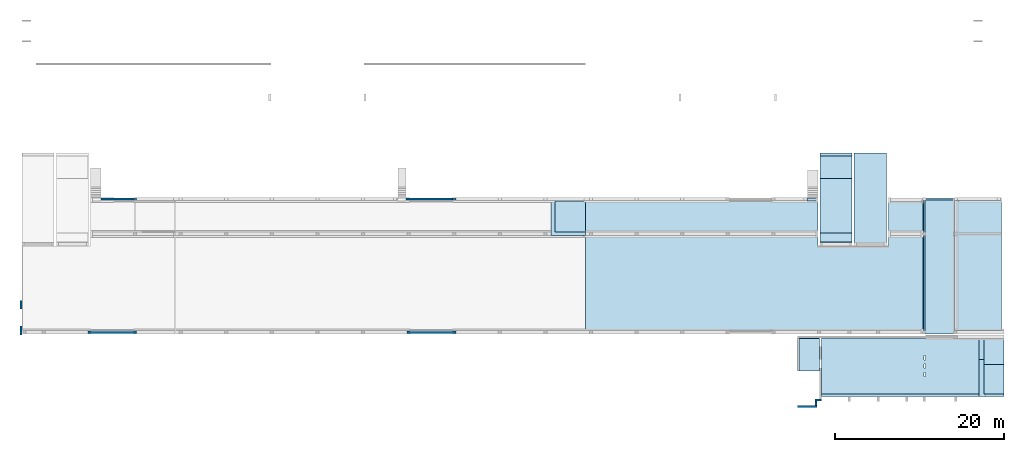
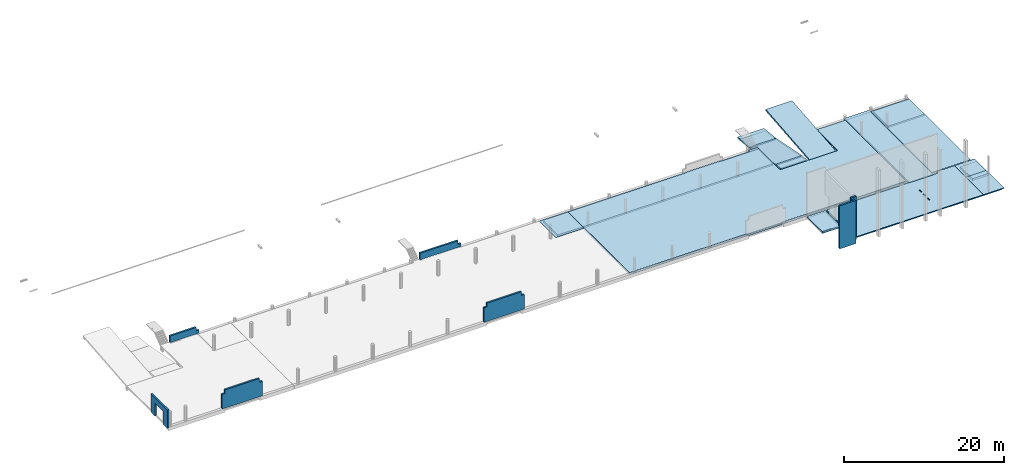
# One storey, part 5 of 9: 27 slabs, 8 walls, 17 openings.
"""IFC2X3 building model written with IfcOpenShell, lengths in millimetres."""

from ifc_helpers import new_model, entity, si_unit, converted_unit, derived_unit, direction, frame, frame_2d, origin, origin_2d_with_axis, place, context, subcontext, project, spatial, polyline, rectangle, outline, extrude, clip, halfspace, material, layer, layer_set, layer_usage, type_object, element, save


model = new_model("IFC2X3")

# Units and contexts
model_context = context("Model", 3, precision=0.01, world=origin(), true_north=direction((6.12303176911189e-17, 1.0)))
body_context = subcontext(model_context, "Body", "Model", "MODEL_VIEW")
ifc_project = project(units=[si_unit("LENGTHUNIT", "METRE", prefix="MILLI"), si_unit("AREAUNIT", "SQUARE_METRE"), si_unit("VOLUMEUNIT", "CUBIC_METRE"), converted_unit("PLANEANGLEUNIT", "DEGREE", entity("IfcRatioMeasure", 0.0174532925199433), si_unit("PLANEANGLEUNIT", "RADIAN"), dimensions=[0, 0, 0, 0, 0, 0, 0]), si_unit("MASSUNIT", "GRAM", prefix="KILO"), derived_unit("MASSDENSITYUNIT", [(si_unit("MASSUNIT", "GRAM", prefix="KILO"), 1), (si_unit("LENGTHUNIT", "METRE"), -3)]), si_unit("TIMEUNIT", "SECOND"), si_unit("FREQUENCYUNIT", "HERTZ"), si_unit("THERMODYNAMICTEMPERATUREUNIT", "DEGREE_CELSIUS"), derived_unit("THERMALTRANSMITTANCEUNIT", [(si_unit("MASSUNIT", "GRAM", prefix="KILO"), 1), (si_unit("THERMODYNAMICTEMPERATUREUNIT", "KELVIN"), -1), (si_unit("TIMEUNIT", "SECOND"), -3)]), derived_unit("VOLUMETRICFLOWRATEUNIT", [(si_unit("LENGTHUNIT", "METRE"), 3), (si_unit("TIMEUNIT", "SECOND"), -1)]), si_unit("ELECTRICCURRENTUNIT", "AMPERE"), si_unit("ELECTRICVOLTAGEUNIT", "VOLT"), si_unit("POWERUNIT", "WATT"), si_unit("FORCEUNIT", "NEWTON", prefix="KILO"), si_unit("ILLUMINANCEUNIT", "LUX"), si_unit("LUMINOUSFLUXUNIT", "LUMEN"), si_unit("LUMINOUSINTENSITYUNIT", "CANDELA"), derived_unit("USERDEFINED", [(si_unit("MASSUNIT", "GRAM", prefix="KILO"), -1), (si_unit("LENGTHUNIT", "METRE"), -2), (si_unit("TIMEUNIT", "SECOND"), 3), (si_unit("LUMINOUSFLUXUNIT", "LUMEN"), 1)]), derived_unit("LINEARVELOCITYUNIT", [(si_unit("LENGTHUNIT", "METRE"), 1), (si_unit("TIMEUNIT", "SECOND"), -1)]), si_unit("PRESSUREUNIT", "PASCAL"), derived_unit("USERDEFINED", [(si_unit("LENGTHUNIT", "METRE"), -2), (si_unit("MASSUNIT", "GRAM", prefix="KILO"), 1), (si_unit("TIMEUNIT", "SECOND"), -2)])], contexts=[model_context])

# Site, building, storey
site_placement = place(None, origin())
site = spatial("IfcSite", under=ifc_project, at=site_placement, Name="Default", CompositionType="ELEMENT")
building_placement = place(site_placement, origin())
building = spatial("IfcBuilding", under=site, at=building_placement, Name="niet gebruiken", CompositionType="ELEMENT")
storey_placement = place(building_placement, frame((0.0, 0.0, 5570.0)))
storey = spatial("IfcBuildingStorey", under=building, at=storey_placement, Name="01b tweede tussenverdieping", CompositionType="ELEMENT", Elevation=5570.0)

# Slabs
ifc_material_1 = material(Name="NLRS_f2_beton prefab")
ifc_layer_1 = layer(ifc_material_1, 255.0)
ifc_layer_set_1 = layer_set([ifc_layer_1], Name="Floor:NLRS_23.21_FL_kanaalplaat d=255_gen")
ifc_layer_usage_1 = layer_usage(ifc_layer_set_1, "AXIS3", "POSITIVE", 0.0)
slab_1_placement = place(storey_placement, origin())
element("IfcSlab", 1, at=slab_1_placement, inside=storey, material=ifc_layer_usage_1, Name="Floor:NLRS_23.21_FL_kanaalplaat d=255_gen", ObjectType="Floor:NLRS_23.21_FL_kanaalplaat d=255_gen", PredefinedType="FLOOR", context=body_context, shape_type="SweptSolid", body=[
    extrude(outline(polyline([(-5389.16666666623, -23730.0), (5820.83333333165, -23730.0), (5820.8333333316, 3755.0), (4600.8333333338, 3755.0), (4600.83333333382, 12145.0), (5820.83333333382, 12145.0), (5820.83333333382, 16230.0), (-5389.16666666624, 16230.0), (-5389.16666666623, -1720.0), (-5464.16666666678, -1720.0), (-5464.16666666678, -6680.0), (-5389.16666666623, -6680.0), (-5389.16666666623, -23730.0)])), frame((98700.0, 14805.1666666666, -70.0), z_axis=(0.0, 0.0, -1.0), x_axis=(0.0, 1.0, 0.0)), (0.0, 0.0, 1.0), 255.000000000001),
])
ifc_material_2 = material(Name="NLRS_f2_beton ihwg")
ifc_layer_2 = layer(ifc_material_2, 70.0)
ifc_layer_set_2 = layer_set([ifc_layer_2], Name="Floor:NLRS_23.21_FL_druklaag d=70 - gevlinderd en ingestrooid_gen")
ifc_layer_usage_2 = layer_usage(ifc_layer_set_2, "AXIS3", "POSITIVE", 0.0)
slab_2_placement = place(storey_placement, origin())
element("IfcSlab", 2, at=slab_2_placement, inside=storey, material=ifc_layer_usage_2, Name="Floor:NLRS_23.21_FL_druklaag d=70 - gevlinderd en ingestrooid_gen", ObjectType="Floor:NLRS_23.21_FL_druklaag d=70 - gevlinderd en ingestrooid_gen", PredefinedType="FLOOR", context=body_context, shape_type="SweptSolid", body=[
    extrude(outline(polyline([(-9686.11111111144, -23075.0), (5693.88888888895, -23075.0), (5693.88888888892, -6065.0), (5768.8888888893, -6065.0), (5768.88888888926, -1045.0), (5693.88888888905, -1045.0), (5693.88888888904, 3160.0), (6013.88888888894, 3160.0), (6013.88888888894, 4430.0), (343.888888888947, 4430.0), (343.88888888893, 12780.0), (5618.88888888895, 12780.0), (5618.88888888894, 16905.0), (-9686.11111111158, 16905.0), (-9686.11111111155, -1045.0), (-9761.1111111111, -1045.0), (-9761.11111111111, -6045.0), (-9686.11111111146, -6045.0), (-9686.11111111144, -23075.0)])), frame((98045.0, 19082.1111111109, 0.0), z_axis=(0.0, 0.0, -1.0), x_axis=(0.0, 1.0, 0.0)), (0.0, 0.0, 1.0), 70.0000000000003),
])
ifc_layer_usage_3 = layer_usage(ifc_layer_set_1, "AXIS3", "POSITIVE", 0.0)
slab_3_placement = place(storey_placement, origin())
element("IfcSlab", 3, at=slab_3_placement, inside=storey, material=ifc_layer_usage_3, Name="Floor:NLRS_23.21_FL_kanaalplaat d=255_gen", ObjectType="Floor:NLRS_23.21_FL_kanaalplaat d=255_gen", PredefinedType="FLOOR", context=body_context, shape_type="SweptSolid", body=[
    extrude(rectangle(XDim=3614.99999999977, YDim=4085.0008139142, at=frame_2d((0.0, -8.64019966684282e-12), x_axis=(1.0, 0.0))), frame((112887.500406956, 22873.4999999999, -70.0), z_axis=(0.0, 0.0, -1.0), x_axis=(0.0, 1.0, 0.0)), (0.0, 0.0, 1.0), 255.000000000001),
])
ifc_layer_usage_4 = layer_usage(ifc_layer_set_1, "AXIS3", "POSITIVE", 0.0)
slab_4_placement = place(storey_placement, origin())
element("IfcSlab", 4, at=slab_4_placement, inside=storey, material=ifc_layer_usage_4, Name="Floor:NLRS_23.21_FL_kanaalplaat d=255_gen", ObjectType="Floor:NLRS_23.21_FL_kanaalplaat d=255_gen", PredefinedType="FLOOR", context=body_context, shape_type="SweptSolid", body=[
    extrude(outline(polyline([(-2786.25000000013, -16636.2500000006), (903.749999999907, -16636.2500000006), (903.749999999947, 413.750000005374), (978.750000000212, 413.750000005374), (978.75000000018, 5373.74999999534), (903.749999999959, 5373.74999999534), (903.749999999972, 10848.7499999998), (-2786.25000000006, 10848.7499999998), (-2786.25000000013, -16636.2500000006)])), frame((91606.2499999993, 23852.25, -70.0), z_axis=(0.0, 0.0, -1.0), x_axis=(0.0, 1.0, 0.0)), (0.0, 0.0, 1.0), 255.000000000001),
])
ifc_layer_3 = layer(ifc_material_2, 250.0)
ifc_layer_set_3 = layer_set([ifc_layer_3], Name="Floor:NLRS_23.21_FL_breedplaat d=70/250_opgeruwd_schil apart_gen")
ifc_layer_usage_5 = layer_usage(ifc_layer_set_3, "AXIS3", "POSITIVE", 0.0)
slab_5_placement = place(storey_placement, frame((102725.0, 19426.0, -401.246890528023)))
element("IfcSlab", 5, at=slab_5_placement, inside=storey, material=ifc_layer_usage_5, Name="Floor:NLRS_23.21_FL_breedplaat d=70/250_opgeruwd_schil apart_gen", ObjectType="Floor:NLRS_23.21_FL_breedplaat d=70/250_opgeruwd_schil apart_gen", PredefinedType="FLOOR", context=body_context, shape_type="SweptSolid", body=[
    extrude(rectangle(XDim=3799.99999999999, YDim=1507.48134316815, at=frame_2d((0.0, -753.740671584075), x_axis=(-1.0, 0.0))), frame((1900.0, 1500.0, 251.246890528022), z_axis=(0.0, 0.0995037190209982, 0.995037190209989), x_axis=(1.0, 0.0, 0.0)), (0.0, 0.0995037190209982, -0.995037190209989), 251.246890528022),
])
ifc_layer_usage_6 = layer_usage(ifc_layer_set_3, "AXIS3", "POSITIVE", 0.0)
slab_6_placement = place(storey_placement, origin())
element("IfcSlab", 6, at=slab_6_placement, inside=storey, material=ifc_layer_usage_6, Name="Floor:NLRS_23.21_FL_breedplaat d=70/250_opgeruwd_schil apart_gen", ObjectType="Floor:NLRS_23.21_FL_breedplaat d=70/250_opgeruwd_schil apart_gen", PredefinedType="FLOOR", context=body_context, shape_type="Clipping", body=[
    clip(clip(extrude(rectangle(XDim=6630.69377968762, YDim=3800.0, at=origin_2d_with_axis()), frame((104625.0, 24176.0, -805.0), z_axis=(0.0, -0.197566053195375, -0.980289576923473), x_axis=(0.0, 0.980289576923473, -0.197566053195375)), (0.197566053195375, 0.0, 0.980289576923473), 187.311195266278), halfspace(frame((104625.0, 27426.0, -1643.61921236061), z_axis=(0.0, -0.197566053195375, -0.980289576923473), x_axis=(0.0, 0.980289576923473, -0.197566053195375)), False)), halfspace(frame((104625.0, 27426.0, -1460.0), z_axis=(0.0, 0.197566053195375, 0.980289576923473), x_axis=(0.0, 0.980289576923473, -0.197566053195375)), False)),
])

# Slab, opening
ifc_layer_usage_7 = layer_usage(ifc_layer_set_3, "AXIS3", "POSITIVE", 0.0)
slab_7_placement = place(storey_placement, frame((102725.0, 27426.0, -2011.24689052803)))
slab_7 = element("IfcSlab", 7, at=slab_7_placement, inside=storey, material=ifc_layer_usage_7, Name="Floor:NLRS_23.21_FL_breedplaat d=70/250_opgeruwd_schil apart_gen", ObjectType="Floor:NLRS_23.21_FL_breedplaat d=70/250_opgeruwd_schil apart_gen", PredefinedType="FLOOR", context=body_context, shape_type="SweptSolid", body=[
    extrude(rectangle(XDim=3014.96268633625, YDim=3799.99999999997, at=frame_2d((0.0, -1507.48134316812), x_axis=(0.0, -1.0))), frame((1900.0, 3000.0, 251.246890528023), z_axis=(0.0, 0.0995037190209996, 0.995037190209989), x_axis=(1.0, 0.0, 0.0)), (0.0, 0.0995037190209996, -0.995037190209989), 251.246890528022),
])
opening_1_placement = place(slab_7_placement, origin())
element("IfcOpeningElement", 8, at=opening_1_placement, cuts=slab_7, ObjectType="Opening", context=body_context, shape_type="SweptSolid", body=[
    extrude(rectangle(XDim=380.0, YDim=3759.99999999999, at=origin_2d_with_axis()), frame((1900.0, 2810.0, -213.753109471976), z_axis=(0.0, 0.0, 1.0), x_axis=(0.0, 1.0, 0.0)), (0.0, 0.0, 1.0), 250.0),
])

# Slabs
ifc_layer_usage_8 = layer_usage(ifc_layer_set_2, "AXIS3", "POSITIVE", 0.0)
slab_8_placement = place(storey_placement, origin())
element("IfcSlab", 9, at=slab_8_placement, inside=storey, material=ifc_layer_usage_8, Name="Floor:NLRS_23.21_FL_druklaag d=70 - gevlinderd en ingestrooid_gen", ObjectType="Floor:NLRS_23.21_FL_druklaag d=70 - gevlinderd en ingestrooid_gen", PredefinedType="FLOOR", context=body_context, shape_type="SweptSolid", body=[
    extrude(rectangle(XDim=4150.00000000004, YDim=4099.99999999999, at=frame_2d((0.0, 4.32009983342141e-12), x_axis=(1.0, 0.0))), frame((72900.0, 22701.0, 0.0), z_axis=(0.0, 0.0, -1.0), x_axis=(0.0, 1.0, 0.0)), (0.0, 0.0, 1.0), 70.0000000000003),
])
ifc_layer_usage_9 = layer_usage(ifc_layer_set_1, "AXIS3", "POSITIVE", 0.0)
slab_9_placement = place(storey_placement, origin())
element("IfcSlab", 10, at=slab_9_placement, inside=storey, material=ifc_layer_usage_9, Name="Floor:NLRS_23.21_FL_kanaalplaat d=255_gen", ObjectType="Floor:NLRS_23.21_FL_kanaalplaat d=255_gen", PredefinedType="FLOOR", context=body_context, shape_type="SweptSolid", body=[
    extrude(rectangle(XDim=3690.00000000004, YDim=3600.0, at=frame_2d((-2.1600499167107e-12, 0.0), x_axis=(1.0, 0.0))), frame((73150.0, 22911.0, -70.0), z_axis=(0.0, 0.0, -1.0), x_axis=(0.0, 1.0, 0.0)), (0.0, 0.0, 1.0), 255.000000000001),
])

# Slab, openings
ifc_layer_4 = layer(ifc_material_1, 320.0)
ifc_layer_set_4 = layer_set([ifc_layer_4], Name="Floor:NLRS_23.21_FL_kanaalplaat d=320_gen")
ifc_layer_usage_10 = layer_usage(ifc_layer_set_4, "AXIS3", "POSITIVE", 0.0)
slab_10_placement = place(storey_placement, frame((102925.0, 1890.0, -80.0)))
slab_10 = element("IfcSlab", 11, at=slab_10_placement, inside=storey, material=ifc_layer_usage_10, Name="Floor:NLRS_23.21_FL_kanaalplaat d=320_gen", ObjectType="Floor:NLRS_23.21_FL_kanaalplaat d=320_gen", PredefinedType="FLOOR", context=body_context, shape_type="SweptSolid", body=[
    extrude(outline(polyline([(-5925.0, 3303.0), (-5925.0, 3258.0), (-9610.0, 3258.0), (-9610.0, -3303.0), (9610.0, -3303.0), (9610.0, 3303.0), (-5925.0, 3303.0)])), frame((9610.0, 3303.0, 320.0), z_axis=(0.0, 0.0, -1.0), x_axis=(-1.0, 0.0, 0.0)), (0.0, 0.0, 1.0), 320.0),
])
opening_2_placement = place(slab_10_placement, origin())
element("IfcOpeningElement", 12, at=opening_2_placement, cuts=slab_10, ObjectType="Opening", context=body_context, shape_type="SweptSolid", body=[
    extrude(rectangle(XDim=500.000000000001, YDim=150.000000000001, at=origin_2d_with_axis()), frame((12200.0, 4293.0, 0.0), z_axis=(0.0, 0.0, 1.0), x_axis=(0.0, -1.0, 0.0)), (0.0, 0.0, 1.0), 420.0),
])
opening_3_placement = place(slab_10_placement, origin())
element("IfcOpeningElement", 13, at=opening_3_placement, cuts=slab_10, ObjectType="Opening", context=body_context, shape_type="SweptSolid", body=[
    extrude(rectangle(XDim=500.000000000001, YDim=150.000000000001, at=origin_2d_with_axis()), frame((12200.0, 2293.0, 0.0), z_axis=(0.0, 0.0, 1.0), x_axis=(0.0, -1.0, 0.0)), (0.0, 0.0, 1.0), 420.0),
])
opening_4_placement = place(slab_10_placement, origin())
element("IfcOpeningElement", 14, at=opening_4_placement, cuts=slab_10, ObjectType="Opening", context=body_context, shape_type="SweptSolid", body=[
    extrude(rectangle(XDim=500.000000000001, YDim=150.000000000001, at=origin_2d_with_axis()), frame((12200.0, 3293.0, 0.0), z_axis=(0.0, 0.0, 1.0), x_axis=(0.0, -1.0, 0.0)), (0.0, 0.0, 1.0), 420.0),
])

ifc_layer_5 = layer(ifc_material_2, 100.0)
ifc_layer_set_5 = layer_set([ifc_layer_5], Name="Floor:NLRS_23.21_FL_druklaag d=100_gen normaal")
ifc_layer_usage_11 = layer_usage(ifc_layer_set_5, "AXIS3", "POSITIVE", 0.0)
slab_11_placement = place(storey_placement, frame((102925.0, 1570.0, 240.0)))
slab_11 = element("IfcSlab", 15, at=slab_11_placement, inside=storey, material=ifc_layer_usage_11, Name="Floor:NLRS_23.21_FL_druklaag d=100_gen normaal", ObjectType="Floor:NLRS_23.21_FL_druklaag d=100_gen normaal", PredefinedType="FLOOR", context=body_context, shape_type="SweptSolid", body=[
    extrude(outline(polyline([(-6765.0, 3275.49999999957), (-6765.0, 3650.49999999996), (-9310.0, 3650.49999999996), (-9310.0, -3650.49999999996), (9310.0, -3650.49999999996), (9310.0, 3275.49999999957), (-6765.0, 3275.49999999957)])), frame((9310.0, 3650.49999999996, 100.0), z_axis=(0.0, 0.0, -1.0), x_axis=(-1.0, 0.0, 0.0)), (0.0, 0.0, 1.0), 100.0),
])
opening_5_placement = place(slab_11_placement, origin())
element("IfcOpeningElement", 16, at=opening_5_placement, cuts=slab_11, ObjectType="Opening", context=body_context, shape_type="SweptSolid", body=[
    extrude(rectangle(XDim=500.000000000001, YDim=150.000000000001, at=origin_2d_with_axis()), frame((12200.0, 4613.0, -320.0), z_axis=(0.0, 0.0, 1.0), x_axis=(0.0, -1.0, 0.0)), (0.0, 0.0, 1.0), 420.0),
])
opening_6_placement = place(slab_11_placement, origin())
element("IfcOpeningElement", 17, at=opening_6_placement, cuts=slab_11, ObjectType="Opening", context=body_context, shape_type="SweptSolid", body=[
    extrude(rectangle(XDim=500.000000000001, YDim=150.000000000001, at=origin_2d_with_axis()), frame((12200.0, 2613.0, -320.0), z_axis=(0.0, 0.0, 1.0), x_axis=(0.0, -1.0, 0.0)), (0.0, 0.0, 1.0), 420.0),
])
opening_7_placement = place(slab_11_placement, origin())
element("IfcOpeningElement", 18, at=opening_7_placement, cuts=slab_11, ObjectType="Opening", context=body_context, shape_type="SweptSolid", body=[
    extrude(rectangle(XDim=500.000000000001, YDim=150.000000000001, at=origin_2d_with_axis()), frame((12200.0, 3613.0, -320.0), z_axis=(0.0, 0.0, 1.0), x_axis=(0.0, -1.0, 0.0)), (0.0, 0.0, 1.0), 420.0),
])

# Slab, opening
ifc_layer_6 = layer(ifc_material_2, 270.0)
ifc_layer_set_6 = layer_set([ifc_layer_6], Name="Floor:NLRS_23.21_FL_breedplaat d=70/270_schil apart_gen")
ifc_layer_usage_12 = layer_usage(ifc_layer_set_6, "AXIS3", "POSITIVE", 0.0)
slab_12_placement = place(storey_placement, frame((100060.0, 4615.0, 70.0)))
slab_12 = element("IfcSlab", 19, at=slab_12_placement, inside=storey, material=ifc_layer_usage_12, Name="Floor:NLRS_23.21_FL_breedplaat d=70/270_schil apart_gen", ObjectType="Floor:NLRS_23.21_FL_breedplaat d=70/270_schil apart_gen", PredefinedType="FLOOR", context=body_context, shape_type="SweptSolid", body=[
    extrude(rectangle(XDim=2615.00000000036, YDim=3881.00000000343, at=origin_2d_with_axis()), frame((1307.50000000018, 1940.50000000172, 270.0), z_axis=(0.0, 0.0, -1.0), x_axis=(-1.0, 0.0, 0.0)), (0.0, 0.0, 1.0), 270.0),
])
opening_8_placement = place(slab_12_placement, origin())
element("IfcOpeningElement", 20, at=opening_8_placement, cuts=slab_12, ObjectType="Opening", context=body_context, shape_type="SweptSolid", body=[
    extrude(rectangle(XDim=100.000000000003, YDim=1305.0, at=origin_2d_with_axis()), frame((652.500540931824, 50.0, 230.0), z_axis=(0.0, 0.0, 1.0), x_axis=(0.0, 1.0, 0.0)), (0.0, 0.0, 1.0), 39.9999999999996),
])

# Slabs
ifc_layer_usage_13 = layer_usage(ifc_layer_set_1, "AXIS3", "POSITIVE", 0.0)
slab_13_placement = place(storey_placement, origin())
element("IfcSlab", 21, at=slab_13_placement, inside=storey, material=ifc_layer_usage_13, Name="Floor:NLRS_23.21_FL_kanaalplaat d=255_gen", ObjectType="Floor:NLRS_23.21_FL_kanaalplaat d=255_gen", PredefinedType="FLOOR", context=body_context, shape_type="SweptSolid", body=[
    extrude(rectangle(XDim=11310.0000000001, YDim=5229.99999999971, at=frame_2d((0.0, 1.72803993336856e-11), x_axis=(1.0, 0.0))), frame((121585.0, 15071.0, -70.0), z_axis=(0.0, 0.0, -1.0), x_axis=(0.0, 1.0, 0.0)), (0.0, 0.0, 1.0), 255.000000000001),
])
ifc_layer_usage_14 = layer_usage(ifc_layer_set_2, "AXIS3", "POSITIVE", 0.0)
slab_14_placement = place(storey_placement, origin())
element("IfcSlab", 22, at=slab_14_placement, inside=storey, material=ifc_layer_usage_14, Name="Floor:NLRS_23.21_FL_druklaag d=70 - gevlinderd en ingestrooid_gen", ObjectType="Floor:NLRS_23.21_FL_druklaag d=70 - gevlinderd en ingestrooid_gen", PredefinedType="FLOOR", context=body_context, shape_type="SweptSolid", body=[
    extrude(rectangle(XDim=15379.9999999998, YDim=5569.99999999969, at=frame_2d((2.27373675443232e-12, -8.86757334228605e-12), x_axis=(1.0, 0.0))), frame((121415.0, 17086.0, 0.0), z_axis=(0.0, 0.0, -1.0), x_axis=(0.0, 1.0, 0.0)), (0.0, 0.0, 1.0), 70.0000000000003),
])
ifc_layer_usage_15 = layer_usage(ifc_layer_set_1, "AXIS3", "POSITIVE", 0.0)
slab_15_placement = place(storey_placement, origin())
element("IfcSlab", 23, at=slab_15_placement, inside=storey, material=ifc_layer_usage_15, Name="Floor:NLRS_23.21_FL_kanaalplaat d=255_gen", ObjectType="Floor:NLRS_23.21_FL_kanaalplaat d=255_gen", PredefinedType="FLOOR", context=body_context, shape_type="SweptSolid", body=[
    extrude(rectangle(XDim=3790.00000000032, YDim=5240.00000000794, at=frame_2d((2.37605490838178e-11, -8.64019966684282e-12), x_axis=(1.0, 0.0))), frame((121590.0, 22861.0, -70.0), z_axis=(0.0, 0.0, -1.0), x_axis=(0.0, 1.0, 0.0)), (0.0, 0.0, 1.0), 255.000000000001),
])
ifc_layer_7 = layer(ifc_material_2, 200.0)
ifc_layer_set_7 = layer_set([ifc_layer_7], Name="Floor:NLRS_23.21_FL_breedplaat d=50/200_schil apart - gevlinderd en ingestrooid_gen")
ifc_layer_usage_16 = layer_usage(ifc_layer_set_7, "AXIS3", "POSITIVE", 0.0)
slab_16_placement = place(storey_placement, frame((114950.0, 8996.0, -200.0)))
element("IfcSlab", 24, at=slab_16_placement, inside=storey, material=ifc_layer_usage_16, Name="Floor:NLRS_23.21_FL_breedplaat d=50/200_schil apart - gevlinderd en ingestrooid_gen", ObjectType="Floor:NLRS_23.21_FL_breedplaat d=50/200_schil apart - gevlinderd en ingestrooid_gen", PredefinedType="FLOOR", context=body_context, shape_type="SweptSolid", body=[
    extrude(rectangle(XDim=16104.9999999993, YDim=3680.00000000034, at=frame_2d((0.0, 0.0), x_axis=(0.0, -1.0))), frame((1840.0, 8052.49999999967, 200.0), z_axis=(0.0, 0.0, -1.0), x_axis=(-1.0, 0.0, 0.0)), (0.0, 0.0, 1.0), 200.0),
])
ifc_layer_8 = layer(ifc_material_1, 70.0)
ifc_layer_set_8 = layer_set([ifc_layer_8], Name="Floor:NLRS_23.21_FL_breedplaatschil d=70_gen")
ifc_layer_usage_17 = layer_usage(ifc_layer_set_8, "AXIS3", "POSITIVE", 0.0)
slab_17_placement = place(storey_placement, origin())
element("IfcSlab", 25, at=slab_17_placement, inside=storey, material=ifc_layer_usage_17, Name="Floor:NLRS_23.21_FL_breedplaatschil d=70_gen", ObjectType="Floor:NLRS_23.21_FL_breedplaatschil d=70_gen", PredefinedType="FLOOR", context=body_context, shape_type="SweptSolid", body=[
    extrude(rectangle(XDim=15874.9999999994, YDim=3449.999186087, at=origin_2d_with_axis()), frame((116905.000406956, 16933.5000000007, -130.0), z_axis=(0.0, 0.0, -1.0), x_axis=(0.0, 1.0, 0.0)), (0.0, 0.0, 1.0), 70.0000000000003),
])
ifc_layer_usage_18 = layer_usage(ifc_layer_set_8, "AXIS3", "POSITIVE", 0.0)
slab_18_placement = place(storey_placement, origin())
element("IfcSlab", 26, at=slab_18_placement, inside=storey, material=ifc_layer_usage_18, Name="Floor:NLRS_23.21_FL_breedplaatschil d=70_gen", ObjectType="Floor:NLRS_23.21_FL_breedplaatschil d=70_gen", PredefinedType="FLOOR", context=body_context, shape_type="Clipping", body=[
    clip(clip(extrude(rectangle(XDim=1045.18706459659, YDim=3759.99999999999, at=frame_2d((0.0, -8.64019966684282e-12), x_axis=(1.0, 0.0))), frame((104625.0, 20406.0, -278.955823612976), z_axis=(0.0, -0.0995037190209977, -0.995037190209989), x_axis=(0.0, 0.995037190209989, -0.0995037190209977)), (0.0995037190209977, 0.0, 0.995037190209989), 70.7000000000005), halfspace(frame((104625.0, 20926.0, -330.955823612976), z_axis=(0.0, 0.0995037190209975, 0.995037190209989), x_axis=(0.0, 0.995037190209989, -0.0995037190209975)), False)), halfspace(frame((104625.0, 20926.0, -401.304952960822), z_axis=(0.0, -0.0995037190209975, -0.995037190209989), x_axis=(0.0, -0.995037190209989, 0.0995037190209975)), False)),
])
ifc_layer_usage_19 = layer_usage(ifc_layer_set_8, "AXIS3", "POSITIVE", 0.0)
slab_19_placement = place(storey_placement, origin())
element("IfcSlab", 27, at=slab_19_placement, inside=storey, material=ifc_layer_usage_19, Name="Floor:NLRS_23.21_FL_breedplaatschil d=70_gen", ObjectType="Floor:NLRS_23.21_FL_breedplaatschil d=70_gen", PredefinedType="FLOOR", context=body_context, shape_type="Clipping", body=[
    clip(clip(extrude(rectangle(XDim=6630.69377968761, YDim=3760.00000000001, at=origin_2d_with_axis()), frame((104625.0, 24176.0, -988.619212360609), z_axis=(0.0, -0.197566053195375, -0.980289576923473), x_axis=(0.0, 0.980289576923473, -0.197566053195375)), (0.197566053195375, 0.0, 0.980289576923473), 72.8432426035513), halfspace(frame((104625.0, 27426.0, -1643.61921236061), z_axis=(0.0, 0.197566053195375, 0.980289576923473), x_axis=(0.0, 0.980289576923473, -0.197566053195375)), False)), halfspace(frame((104625.0, 27426.0, -1715.02668383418), z_axis=(0.0, -0.197566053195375, -0.980289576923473), x_axis=(0.0, -0.980289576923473, 0.197566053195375)), False)),
])
ifc_layer_usage_20 = layer_usage(ifc_layer_set_8, "AXIS3", "POSITIVE", 0.0)
slab_20_placement = place(storey_placement, origin())
element("IfcSlab", 28, at=slab_20_placement, inside=storey, material=ifc_layer_usage_20, Name="Floor:NLRS_23.21_FL_breedplaatschil d=70_gen", ObjectType="Floor:NLRS_23.21_FL_breedplaatschil d=70_gen", PredefinedType="FLOOR", context=body_context, shape_type="Clipping", body=[
    clip(clip(extrude(rectangle(XDim=2653.1671639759, YDim=3759.99999999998, at=frame_2d((4.32009983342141e-12, 0.0), x_axis=(1.0, 0.0))), frame((104625.0, 28746.0, -1772.89776118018), z_axis=(0.0, -0.0995037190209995, -0.995037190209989), x_axis=(0.0, 0.995037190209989, -0.0995037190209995)), (0.0995037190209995, 0.0, 0.995037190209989), 70.7000000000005), halfspace(frame((104625.0, 30426.0, -1940.89776118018), z_axis=(0.0, 0.0995037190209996, 0.995037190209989), x_axis=(0.0, 0.995037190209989, -0.0995037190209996)), False)), halfspace(frame((104625.0, 30426.0, -2011.24689052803), z_axis=(0.0, -0.0995037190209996, -0.995037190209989), x_axis=(0.0, -0.995037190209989, 0.0995037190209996)), False)),
])

# Slab, opening
ifc_layer_usage_21 = layer_usage(ifc_layer_set_3, "AXIS3", "POSITIVE", 0.0)
slab_21_placement = place(storey_placement, frame((106775.0, 19426.0, -251.062036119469)))
slab_21 = element("IfcSlab", 29, at=slab_21_placement, inside=storey, material=ifc_layer_usage_21, Name="Floor:NLRS_23.21_FL_breedplaat d=70/250_opgeruwd_schil apart_gen", ObjectType="Floor:NLRS_23.21_FL_breedplaat d=70/250_opgeruwd_schil apart_gen", PredefinedType="FLOOR", context=body_context, shape_type="SweptSolid", body=[
    extrude(rectangle(XDim=11049.0542581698, YDim=3799.99999999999, at=frame_2d((0.0, 5525.08843574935), x_axis=(0.0, -1.0))), frame((1900.0, -0.558814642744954, 251.062036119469), z_axis=(0.0, -0.0941257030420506, 0.995560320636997), x_axis=(1.0, 0.0, 0.0)), (0.0, -0.0941257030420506, -0.995560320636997), 251.11486950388),
])
opening_9_placement = place(slab_21_placement, origin())
element("IfcOpeningElement", 30, at=opening_9_placement, cuts=slab_21, ObjectType="Opening", context=body_context, shape_type="SweptSolid", body=[
    extrude(rectangle(XDim=380.0, YDim=3759.99999999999, at=origin_2d_with_axis()), frame((1900.0, 190.0, -214.437963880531), z_axis=(0.0, 0.0, 1.0), x_axis=(0.0, 1.0, 0.0)), (0.0, 0.0, 1.0), 250.000000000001),
])

# Slabs
ifc_layer_9 = layer(ifc_material_2, 70.0)
ifc_layer_set_9 = layer_set([ifc_layer_9], Name="Floor:NLRS_23.21_FL_druklaag d=70_gen")
ifc_layer_usage_22 = layer_usage(ifc_layer_set_9, "AXIS3", "POSITIVE", 0.0)
slab_22_placement = place(storey_placement, origin())
element("IfcSlab", 31, at=slab_22_placement, inside=storey, material=ifc_layer_usage_22, Name="Floor:NLRS_23.21_FL_druklaag d=70_gen", ObjectType="Floor:NLRS_23.21_FL_druklaag d=70_gen", PredefinedType="FLOOR", context=body_context, shape_type="SweptSolid", body=[
    extrude(rectangle(XDim=320.000000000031, YDim=1270.00000000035, at=frame_2d((0.0, 8.69704308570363e-12), x_axis=(1.0, 0.0))), frame((101840.0, 24916.0, -70.0), z_axis=(0.0, 0.0, -1.0), x_axis=(0.0, 1.0, 0.0)), (0.0, 0.0, 1.0), 70.0000000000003),
])
ifc_layer_usage_23 = layer_usage(ifc_layer_set_4, "AXIS3", "POSITIVE", 0.0)
slab_23_placement = place(storey_placement, origin())
element("IfcSlab", 32, at=slab_23_placement, inside=storey, material=ifc_layer_usage_23, Name="Floor:NLRS_23.21_FL_kanaalplaat d=320_gen", ObjectType="Floor:NLRS_23.21_FL_kanaalplaat d=320_gen", PredefinedType="FLOOR", context=body_context, shape_type="SweptSolid", body=[
    extrude(rectangle(XDim=3070.99999999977, YDim=2365.0, at=frame_2d((1.03455022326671e-11, 0.0), x_axis=(1.0, 0.0))), frame((123327.5, 6915.50000000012, 240.0), z_axis=(0.0, 0.0, -1.0), x_axis=(0.0, 1.0, 0.0)), (0.0, 0.0, 1.0), 320.0),
])
ifc_layer_usage_24 = layer_usage(ifc_layer_set_5, "AXIS3", "POSITIVE", 0.0)
slab_24_placement = place(storey_placement, origin())
element("IfcSlab", 33, at=slab_24_placement, inside=storey, material=ifc_layer_usage_24, Name="Floor:NLRS_23.21_FL_druklaag d=100_gen normaal", ObjectType="Floor:NLRS_23.21_FL_druklaag d=100_gen normaal", PredefinedType="FLOOR", context=body_context, shape_type="SweptSolid", body=[
    extrude(rectangle(XDim=2890.99999999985, YDim=2965.00000000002, at=frame_2d((0.0, 8.64019966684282e-12), x_axis=(1.0, 0.0))), frame((123027.5, 7425.50000000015, 340.0), z_axis=(0.0, 0.0, -1.0), x_axis=(0.0, 1.0, 0.0)), (0.0, 0.0, 1.0), 100.0),
])
ifc_layer_usage_25 = layer_usage(ifc_layer_set_8, "AXIS3", "POSITIVE", 0.0)
slab_25_placement = place(storey_placement, origin())
element("IfcSlab", 34, at=slab_25_placement, inside=storey, material=ifc_layer_usage_25, Name="Floor:NLRS_23.21_FL_breedplaatschil d=70_gen", ObjectType="Floor:NLRS_23.21_FL_breedplaatschil d=70_gen", PredefinedType="FLOOR", context=body_context, shape_type="SweptSolid", body=[
    extrude(rectangle(XDim=3841.00000000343, YDim=2450.00000000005, at=frame_2d((1.02318153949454e-12, 8.64019966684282e-12), x_axis=(1.0, 0.0))), frame((101430.0, 6555.49999999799, 140.0), z_axis=(0.0, 0.0, -1.0), x_axis=(0.0, 1.0, 0.0)), (0.0, 0.0, 1.0), 70.0000000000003),
])

# Slab, opening
ifc_layer_usage_26 = layer_usage(ifc_layer_set_4, "AXIS3", "POSITIVE", 0.0)
slab_26_placement = place(storey_placement, frame((122145.0, 1890.0, -80.0)))
slab_26 = element("IfcSlab", 35, at=slab_26_placement, inside=storey, material=ifc_layer_usage_26, Name="Floor:NLRS_23.21_FL_kanaalplaat d=320_gen", ObjectType="Floor:NLRS_23.21_FL_kanaalplaat d=320_gen", PredefinedType="FLOOR", context=body_context, shape_type="SweptSolid", body=[
    extrude(rectangle(XDim=2365.0, YDim=3490.00000000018, at=frame_2d((0.0, 0.0), x_axis=(-1.0, 0.0))), frame((1182.5, 1745.0, 320.0), z_axis=(0.0, 0.0, -1.0), x_axis=(-1.0, 0.0, 0.0)), (0.0, 0.0, 1.0), 320.0),
])
opening_10_placement = place(slab_26_placement, origin())
element("IfcOpeningElement", 36, at=opening_10_placement, cuts=slab_26, ObjectType="Opening", context=body_context, shape_type="SweptSolid", body=[
    extrude(rectangle(XDim=100.000000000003, YDim=200.000000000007, at=origin_2d_with_axis()), frame((2265.0, 30.0, 0.0), z_axis=(0.0, 0.0, 1.0), x_axis=(0.0, 1.0, 0.0)), (0.0, 0.0, 1.0), 80.0000000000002),
])

# Slab
ifc_layer_usage_27 = layer_usage(ifc_layer_set_5, "AXIS3", "POSITIVE", 0.0)
slab_27_placement = place(storey_placement, origin())
element("IfcSlab", 37, at=slab_27_placement, inside=storey, material=ifc_layer_usage_27, Name="Floor:NLRS_23.21_FL_druklaag d=100_gen normaal", ObjectType="Floor:NLRS_23.21_FL_druklaag d=100_gen normaal", PredefinedType="FLOOR", context=body_context, shape_type="SweptSolid", body=[
    extrude(rectangle(XDim=4410.00000000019, YDim=2965.00000000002, at=frame_2d((-2.27373675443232e-13, 8.64019966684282e-12), x_axis=(1.0, 0.0))), frame((123027.5, 3775.0, 340.0), z_axis=(0.0, 0.0, -1.0), x_axis=(0.0, 1.0, 0.0)), (0.0, 0.0, 1.0), 100.0),
])

# Walls
ifc_layer_10 = layer(ifc_material_1, 250.0)
ifc_layer_set_10 = layer_set([ifc_layer_10], Name="Basic Wall:NLRS_21.21_WA_beton prefab d=250_gen")
ifc_layer_usage_28 = layer_usage(ifc_layer_set_10, "AXIS2", "NEGATIVE", 125.0)
wall_type_1 = type_object("IfcWallType", Name="Basic Wall:NLRS_21.21_WA_beton prefab d=250_gen", PredefinedType="STANDARD", material=ifc_layer_set_10)
wall_1_placement = place(storey_placement, frame((100045.0, 410.0, 360.0)))
element("IfcWallStandardCase", 38, at=wall_1_placement, inside=storey, type_object=wall_type_1, material=ifc_layer_usage_28, Name="Basic Wall:NLRS_21.21_WA_beton prefab d=250_gen", ObjectType="Basic Wall:NLRS_21.21_WA_beton prefab d=250_gen", context=body_context, shape_type="SweptSolid", body=[
    extrude(rectangle(XDim=2330.00027871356, YDim=250.0, at=frame_2d((1165.00013935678, -2.8421709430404e-14), x_axis=(-1.0, 0.0))), origin(), (0.0, 0.0, 1.0), 6580.0),
])
ifc_layer_usage_29 = layer_usage(ifc_layer_set_10, "AXIS2", "NEGATIVE", 125.0)
wall_2_placement = place(storey_placement, frame((102125.000278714, 1175.0, 360.0)))
element("IfcWallStandardCase", 39, at=wall_2_placement, inside=storey, type_object=wall_type_1, material=ifc_layer_usage_29, Name="Basic Wall:NLRS_21.21_WA_beton prefab d=250_gen", ObjectType="Basic Wall:NLRS_21.21_WA_beton prefab d=250_gen", context=body_context, shape_type="SweptSolid", body=[
    extrude(rectangle(XDim=799.999721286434, YDim=250.0, at=frame_2d((399.999860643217, -2.8421709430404e-14), x_axis=(-1.0, 0.0))), origin(), (0.0, 0.0, 1.0), 6580.0),
])
ifc_layer_usage_30 = layer_usage(ifc_layer_set_10, "AXIS2", "NEGATIVE", 125.0)
wall_3_placement = place(storey_placement, frame((102250.000278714, 535.0, 360.0), z_axis=(0.0, 0.0, 1.0), x_axis=(0.0, 1.0, 0.0)))
element("IfcWallStandardCase", 40, at=wall_3_placement, inside=storey, type_object=wall_type_1, material=ifc_layer_usage_30, Name="Basic Wall:NLRS_21.21_WA_beton prefab d=250_gen", ObjectType="Basic Wall:NLRS_21.21_WA_beton prefab d=250_gen", context=body_context, shape_type="SweptSolid", body=[
    extrude(rectangle(XDim=515.000000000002, YDim=250.000000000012, at=frame_2d((257.500000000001, 1.25055521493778e-12), x_axis=(-1.0, 0.0))), origin(), (0.0, 0.0, 1.0), 6580.0),
])

# Wall, opening
ifc_layer_11 = layer(ifc_material_1, 250.0)
ifc_layer_set_11 = layer_set([ifc_layer_11], Name="Basic Wall:NLRS_22.21_WA_beton prefab d=250_gen")
ifc_layer_usage_31 = layer_usage(ifc_layer_set_11, "AXIS2", "NEGATIVE", 125.0)
wall_type_2 = type_object("IfcWallType", Name="Basic Wall:NLRS_22.21_WA_beton prefab d=250_gen", PredefinedType="STANDARD", material=ifc_layer_set_11)
wall_4_placement = place(storey_placement, frame((8100.0, 12986.0, 20.0), z_axis=(0.0, 0.0, 1.0), x_axis=(0.0, -1.0, 0.0)))
wall_4 = element("IfcWallStandardCase", 41, at=wall_4_placement, inside=storey, type_object=wall_type_2, material=ifc_layer_usage_31, Name="Basic Wall:NLRS_22.21_WA_beton prefab d=250_gen", ObjectType="Basic Wall:NLRS_22.21_WA_beton prefab d=250_gen", context=body_context, shape_type="SweptSolid", body=[
    extrude(rectangle(XDim=4100.0, YDim=249.999999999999, at=frame_2d((2050.0, 0.0), x_axis=(-1.0, 0.0))), origin(), (0.0, 0.0, 1.0), 2779.99999999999),
])
opening_11_placement = place(wall_4_placement, origin())
element("IfcOpeningElement", 42, at=opening_11_placement, cuts=wall_4, Name="Basic Wall:NLRS_22.21_WA_beton prefab d=250_gen", ObjectType="Opening", context=body_context, shape_type="SweptSolid", body=[
    extrude(rectangle(XDim=1990.0, YDim=2050.0, at=frame_2d((-5.6843418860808e-13, -1.13686837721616e-12), x_axis=(1.0, 0.0))), frame((2050.0, -1649.0, 975.0), z_axis=(0.0, 1.0, 0.0), x_axis=(0.0, 0.0, 1.0)), (0.0, 0.0, 1.0), 3048.0),
])

ifc_layer_12 = layer(ifc_material_1, 250.0)
ifc_layer_set_12 = layer_set([ifc_layer_12], Name="Basic Wall:NLRS_16.21_WA_beton prefab d=250_gen")
ifc_layer_usage_32 = layer_usage(ifc_layer_set_12, "AXIS2", "NEGATIVE", 125.0)
wall_type_3 = type_object("IfcWallType", Name="Basic Wall:NLRS_16.21_WA_beton prefab d=250_gen", PredefinedType="STANDARD", material=ifc_layer_set_12)
wall_5_placement = place(storey_placement, frame((17595.0, 24976.0, 30.0)))
wall_5 = element("IfcWallStandardCase", 43, at=wall_5_placement, inside=storey, type_object=wall_type_3, material=ifc_layer_usage_32, Name="Basic Wall:NLRS_16.21_WA_beton prefab d=250_gen", ObjectType="Basic Wall:NLRS_16.21_WA_beton prefab d=250_gen", context=body_context, shape_type="SweptSolid", body=[
    extrude(rectangle(XDim=4204.9999999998, YDim=250.000000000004, at=frame_2d((2102.4999999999, -5.40012479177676e-13), x_axis=(-1.0, 0.0))), origin(), (0.0, 0.0, 1.0), 1019.99999999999),
])
opening_12_placement = place(wall_5_placement, origin())
element("IfcOpeningElement", 44, at=opening_12_placement, cuts=wall_5, Name="Basic Wall:NLRS_16.21_WA_beton prefab d=250_gen", ObjectType="Opening", context=body_context, shape_type="SweptSolid", body=[
    extrude(rectangle(XDim=560.0, YDim=420.0, at=origin_2d_with_axis()), frame((3995.0, 125.0, 740.0), z_axis=(0.0, -1.0, 0.0), x_axis=(0.0, 0.0, 1.0)), (0.0, 0.0, 1.0), 250.0),
])

# Wall, openings
ifc_layer_usage_33 = layer_usage(ifc_layer_set_12, "AXIS2", "NEGATIVE", 125.0)
wall_6_placement = place(storey_placement, frame((16000.0, 9196.0, 30.0)))
wall_6 = element("IfcWallStandardCase", 45, at=wall_6_placement, inside=storey, type_object=wall_type_3, material=ifc_layer_usage_33, Name="Basic Wall:NLRS_16.21_WA_beton prefab d=250_gen", ObjectType="Basic Wall:NLRS_16.21_WA_beton prefab d=250_gen", context=body_context, shape_type="SweptSolid", body=[
    extrude(rectangle(XDim=5799.99999999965, YDim=249.999999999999, at=frame_2d((2899.99999999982, -1.13686837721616e-13), x_axis=(-1.0, 0.0))), origin(), (0.0, 0.0, 1.0), 2779.99999999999),
])
opening_13_placement = place(wall_6_placement, origin())
element("IfcOpeningElement", 46, at=opening_13_placement, cuts=wall_6, Name="Basic Wall:NLRS_16.21_WA_beton prefab d=250_gen", ObjectType="Opening", context=body_context, shape_type="SweptSolid", body=[
    extrude(rectangle(XDim=560.000000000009, YDim=420.0, at=origin_2d_with_axis()), frame((5590.0, 125.0, 2500.0), z_axis=(0.0, -1.0, 0.0), x_axis=(0.0, 0.0, 1.0)), (0.0, 0.0, 1.0), 250.0),
])
opening_14_placement = place(wall_6_placement, origin())
element("IfcOpeningElement", 47, at=opening_14_placement, cuts=wall_6, Name="Basic Wall:NLRS_16.21_WA_beton prefab d=250_gen", ObjectType="Opening", context=body_context, shape_type="SweptSolid", body=[
    extrude(rectangle(XDim=560.000000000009, YDim=420.000000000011, at=frame_2d((1.08002495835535e-12, 0.0), x_axis=(0.0, 1.0))), frame((210.0, 125.0, 2500.0), z_axis=(0.0, -1.0, 0.0), x_axis=(-1.0, 0.0, 0.0)), (0.0, 0.0, 1.0), 250.0),
])

# Wall, opening
ifc_layer_usage_34 = layer_usage(ifc_layer_set_12, "AXIS2", "NEGATIVE", 125.0)
wall_7_placement = place(storey_placement, frame((53690.0, 24976.0, 30.0)))
wall_7 = element("IfcWallStandardCase", 48, at=wall_7_placement, inside=storey, type_object=wall_type_3, material=ifc_layer_usage_34, Name="Basic Wall:NLRS_16.21_WA_beton prefab d=250_gen", ObjectType="Basic Wall:NLRS_16.21_WA_beton prefab d=250_gen", context=body_context, shape_type="SweptSolid", body=[
    extrude(rectangle(XDim=5909.99999999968, YDim=250.000000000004, at=frame_2d((2954.99999999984, 2.1316282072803e-14), x_axis=(-1.0, 0.0))), origin(), (0.0, 0.0, 1.0), 1019.99999999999),
])
opening_15_placement = place(wall_7_placement, origin())
element("IfcOpeningElement", 49, at=opening_15_placement, cuts=wall_7, Name="Basic Wall:NLRS_16.21_WA_beton prefab d=250_gen", ObjectType="Opening", context=body_context, shape_type="SweptSolid", body=[
    extrude(rectangle(XDim=560.0, YDim=420.000000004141, at=frame_2d((0.0, 4.33431068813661e-12), x_axis=(1.0, 0.0))), frame((5700.0, 125.0, 740.0), z_axis=(0.0, -1.0, 0.0), x_axis=(0.0, 0.0, 1.0)), (0.0, 0.0, 1.0), 250.0),
])

# Wall, openings
ifc_layer_usage_35 = layer_usage(ifc_layer_set_12, "AXIS2", "NEGATIVE", 125.0)
wall_8_placement = place(storey_placement, frame((53800.0, 9196.0, 30.0)))
wall_8 = element("IfcWallStandardCase", 50, at=wall_8_placement, inside=storey, type_object=wall_type_3, material=ifc_layer_usage_35, Name="Basic Wall:NLRS_16.21_WA_beton prefab d=250_gen", ObjectType="Basic Wall:NLRS_16.21_WA_beton prefab d=250_gen", context=body_context, shape_type="SweptSolid", body=[
    extrude(rectangle(XDim=5799.99999999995, YDim=249.999999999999, at=frame_2d((2899.99999999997, 0.0), x_axis=(-1.0, 0.0))), origin(), (0.0, 0.0, 1.0), 2779.99999999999),
])
opening_16_placement = place(wall_8_placement, origin())
element("IfcOpeningElement", 51, at=opening_16_placement, cuts=wall_8, Name="Basic Wall:NLRS_16.21_WA_beton prefab d=250_gen", ObjectType="Opening", context=body_context, shape_type="SweptSolid", body=[
    extrude(rectangle(XDim=560.000000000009, YDim=420.000000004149, at=origin_2d_with_axis()), frame((5590.0, 125.0, 2500.0), z_axis=(0.0, -1.0, 0.0), x_axis=(0.0, 0.0, 1.0)), (0.0, 0.0, 1.0), 250.0),
])
opening_17_placement = place(wall_8_placement, origin())
element("IfcOpeningElement", 52, at=opening_17_placement, cuts=wall_8, Name="Basic Wall:NLRS_16.21_WA_beton prefab d=250_gen", ObjectType="Opening", context=body_context, shape_type="SweptSolid", body=[
    extrude(rectangle(XDim=560.000000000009, YDim=420.000000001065, at=frame_2d((0.0, 0.0), x_axis=(0.0, 1.0))), frame((210.0, 125.0, 2500.0), z_axis=(0.0, -1.0, 0.0), x_axis=(-1.0, 0.0, 0.0)), (0.0, 0.0, 1.0), 250.0),
])

save(model, "model.ifc")
